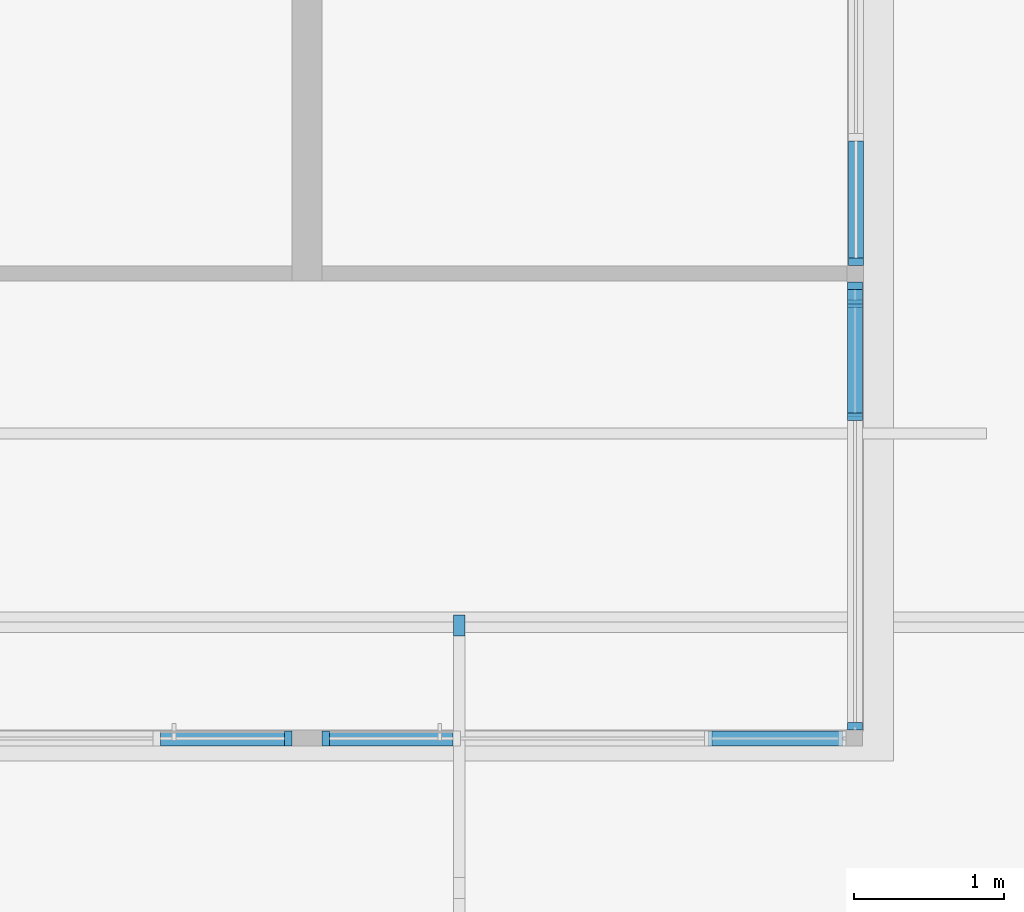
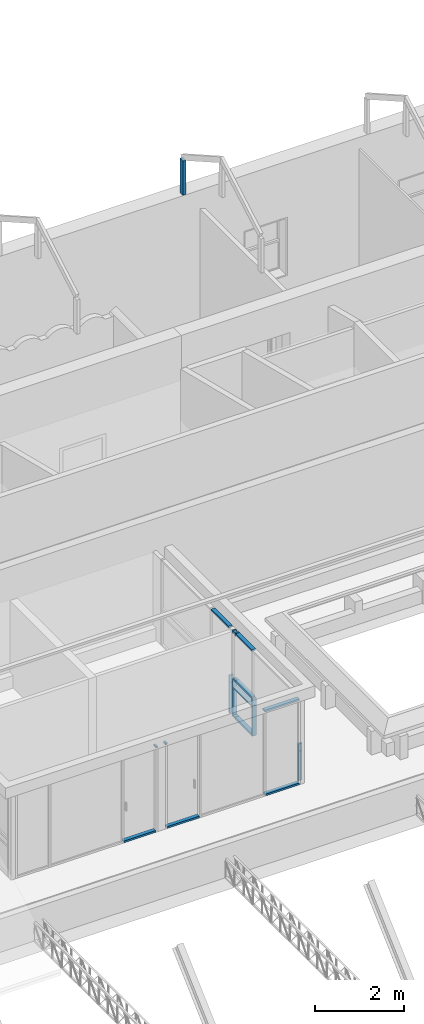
# One storey, part 62 of 153: 25 members, 5 elements without a shape of their own.
"""IFC4 building model written with IfcOpenShell, lengths in metres."""

from ifc_helpers import new_model, entity, si_unit, converted_unit, derived_unit, direction, frame, origin, place, context, subcontext, project, spatial, indexed_curve, outline, extrude, source, transform, mapped, material, type_object, type_shapes, element, aggregate, save


model = new_model("IFC4")

# Units and contexts
model_context = context("Model", 3, precision=1e-05, world=origin(), true_north=direction((6.123031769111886e-17, 1.0)))
body_context = subcontext(model_context, "Body", "Model", "MODEL_VIEW")
ifc_project = project(units=[si_unit("LENGTHUNIT", "METRE"), si_unit("AREAUNIT", "SQUARE_METRE"), si_unit("VOLUMEUNIT", "CUBIC_METRE"), converted_unit("PLANEANGLEUNIT", "DEGREE", entity("IfcRatioMeasure", 0.017453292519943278), si_unit("PLANEANGLEUNIT", "RADIAN"), dimensions=[0, 0, 0, 0, 0, 0, 0]), si_unit("MASSUNIT", "GRAM", prefix="KILO"), derived_unit("MASSDENSITYUNIT", [(si_unit("MASSUNIT", "GRAM", prefix="KILO"), 1), (si_unit("LENGTHUNIT", "METRE"), -3)]), derived_unit("MOMENTOFINERTIAUNIT", [(si_unit("LENGTHUNIT", "METRE"), 4)]), si_unit("TIMEUNIT", "SECOND"), si_unit("FREQUENCYUNIT", "HERTZ"), si_unit("THERMODYNAMICTEMPERATUREUNIT", "DEGREE_CELSIUS"), derived_unit("THERMALTRANSMITTANCEUNIT", [(si_unit("MASSUNIT", "GRAM", prefix="KILO"), 1), (si_unit("THERMODYNAMICTEMPERATUREUNIT", "KELVIN"), -1), (si_unit("TIMEUNIT", "SECOND"), -3)]), derived_unit("VOLUMETRICFLOWRATEUNIT", [(si_unit("LENGTHUNIT", "METRE"), 3), (si_unit("TIMEUNIT", "SECOND"), -1)]), derived_unit("MASSFLOWRATEUNIT", [(si_unit("MASSUNIT", "GRAM", prefix="KILO"), 1), (si_unit("TIMEUNIT", "SECOND"), -1)]), derived_unit("ROTATIONALFREQUENCYUNIT", [(si_unit("TIMEUNIT", "SECOND"), -1)]), si_unit("ELECTRICCURRENTUNIT", "AMPERE"), si_unit("ELECTRICVOLTAGEUNIT", "VOLT"), si_unit("POWERUNIT", "WATT"), si_unit("FORCEUNIT", "NEWTON", prefix="KILO"), si_unit("ILLUMINANCEUNIT", "LUX"), si_unit("LUMINOUSFLUXUNIT", "LUMEN"), si_unit("LUMINOUSINTENSITYUNIT", "CANDELA"), derived_unit("USERDEFINED", [(si_unit("MASSUNIT", "GRAM", prefix="KILO"), -1), (si_unit("LENGTHUNIT", "METRE"), -2), (si_unit("TIMEUNIT", "SECOND"), 3), (si_unit("LUMINOUSFLUXUNIT", "LUMEN"), 1)]), derived_unit("SOUNDPOWERUNIT", [(si_unit("MASSUNIT", "GRAM", prefix="KILO"), 1), (si_unit("LENGTHUNIT", "METRE"), 2), (si_unit("TIMEUNIT", "SECOND"), -3)]), derived_unit("SOUNDPRESSUREUNIT", [(si_unit("MASSUNIT", "GRAM", prefix="KILO"), 1), (si_unit("LENGTHUNIT", "METRE"), -1), (si_unit("TIMEUNIT", "SECOND"), -2)]), derived_unit("LINEARVELOCITYUNIT", [(si_unit("LENGTHUNIT", "METRE"), 1), (si_unit("TIMEUNIT", "SECOND"), -1)]), si_unit("PRESSUREUNIT", "PASCAL"), derived_unit("USERDEFINED", [(si_unit("LENGTHUNIT", "METRE"), -2), (si_unit("MASSUNIT", "GRAM", prefix="KILO"), 1), (si_unit("TIMEUNIT", "SECOND"), -2)]), derived_unit("LINEARFORCEUNIT", [(si_unit("MASSUNIT", "GRAM", prefix="KILO"), 1), (si_unit("LENGTHUNIT", "METRE"), 1), (si_unit("TIMEUNIT", "SECOND"), -2), (si_unit("LENGTHUNIT", "METRE"), -1)]), derived_unit("PLANARFORCEUNIT", [(si_unit("MASSUNIT", "GRAM", prefix="KILO"), 1), (si_unit("LENGTHUNIT", "METRE"), 1), (si_unit("TIMEUNIT", "SECOND"), -2), (si_unit("LENGTHUNIT", "METRE"), -2)])], contexts=[model_context])

# Site, building, storey
site_placement = place(None, origin())
site = spatial("IfcSite", under=ifc_project, at=site_placement, Name="Superficie", CompositionType="ELEMENT")
building_placement = place(site_placement, origin())
building = spatial("IfcBuilding", under=site, at=building_placement, CompositionType="ELEMENT")
storey_placement = place(building_placement, frame((0.0, 0.0, 3.5999999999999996)))
storey = spatial("IfcBuildingStorey", under=building, at=storey_placement, Name="Nivel 1", CompositionType="ELEMENT", Elevation=3.5999999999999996)

# Curtain wall, member
curtain_wall_type = type_object("IfcCurtainWallType", Name="Muro cortina:Muro cortina - simple", PredefinedType="NOTDEFINED")
curtain_wall_1_placement = place(storey_placement, frame((0.0, 0.0, -3.5999999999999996)))
curtain_wall_1 = element("IfcCurtainWall", 1, at=curtain_wall_1_placement, inside=storey, type_object=curtain_wall_type, Name="Muro cortina:Muro cortina - simple", ObjectType="Muro cortina:Muro cortina - simple", PredefinedType="NOTDEFINED")
ifc_material_1 = material(Name="<Unnamed>")
member_type_1 = type_object("IfcMemberType", Name="Montante rectangular:Montante rectangular - 5 x 10 cm", PredefinedType="MULLION", material=ifc_material_1)
shared_shape_1 = source(origin(), body_context, "Body", "SweptSolid", [
    extrude(outline(indexed_curve([(-0.05, -0.025), (0.05, -0.025), (0.05, 0.025), (-0.05, 0.025), (-0.05, -0.025)], self_intersect=False)), frame((-0.025, 0.0, -0.8999999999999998), z_axis=(0.0, 0.0, 1.0), x_axis=(0.0, -1.0, 0.0)), (0.0, 0.0, 1.0), 0.8999999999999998),
])
type_shapes(member_type_1, [shared_shape_1])
member_1_placement = place(curtain_wall_1_placement, frame((-6.498200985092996, -0.9636067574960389, 5.949999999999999), z_axis=(-1.0, 0.0, 0.0), x_axis=(0.0, 0.0, 1.0)))
member_1 = element("IfcMember", 2, at=member_1_placement, type_object=member_type_1, material=ifc_material_1, Name="Montante rectangular:Montante rectangular - 5 x 10 cm", ObjectType="Montante rectangular:Montante rectangular - 5 x 10 cm", PredefinedType="MULLION", context=body_context, shape_type="MappedRepresentation", body=[
    mapped(shared_shape_1, transform((0.0, 0.0, 0.0), scale=1.0)),
])

# Curtain wall, members
curtain_wall_2_placement = place(storey_placement, frame((0.0, 0.0, -3.5999999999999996)))
curtain_wall_2 = element("IfcCurtainWall", 3, at=curtain_wall_2_placement, inside=storey, type_object=curtain_wall_type, Name="Muro cortina:Muro cortina - simple", ObjectType="Muro cortina:Muro cortina - simple", PredefinedType="NOTDEFINED")
member_type_2 = type_object("IfcMemberType", Name="Montante rectangular:Montante rectangular - 5 x 10 cm", PredefinedType="MULLION", material=ifc_material_1)
shared_shape_2 = source(origin(), body_context, "Body", "SweptSolid", [
    extrude(outline(indexed_curve([(-0.05, -0.025), (0.05, -0.025), (0.05, 0.025), (-0.05, 0.025), (-0.05, -0.025)], self_intersect=False)), frame((0.0, 0.0, -0.19999999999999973), z_axis=(0.0, 0.0, 1.0), x_axis=(0.0, -1.0, 0.0)), (0.0, 0.0, 1.0), 0.19999999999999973),
])
type_shapes(member_type_2, [shared_shape_2])
member_2_placement = place(curtain_wall_2_placement, frame((-5.5182009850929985, 1.1813932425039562, 4.43), z_axis=(0.0, 0.0, -1.0), x_axis=(0.0, 1.0, 0.0)))
member_2 = element("IfcMember", 4, at=member_2_placement, type_object=member_type_2, material=ifc_material_1, Name="Montante rectangular:Montante rectangular - 5 x 10 cm", ObjectType="Montante rectangular:Montante rectangular - 5 x 10 cm", PredefinedType="MULLION", context=body_context, shape_type="MappedRepresentation", body=[
    mapped(shared_shape_2, transform((0.0, 0.0, 0.0), scale=1.0)),
])
member_type_3 = type_object("IfcMemberType", Name="Montante rectangular:Montante rectangular - 5 x 10 cm", PredefinedType="MULLION", material=ifc_material_1)
shared_shape_3 = source(origin(), body_context, "Body", "SweptSolid", [
    extrude(outline(indexed_curve([(-0.05, -0.025), (0.05, -0.025), (0.05, 0.025), (-0.05, 0.025), (-0.05, -0.025)], self_intersect=False)), frame((0.0, 0.0, -0.8350000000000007), z_axis=(0.0, 0.0, 1.0), x_axis=(0.0, -1.0, 0.0)), (0.0, 0.0, 1.0), 0.8350000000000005),
])
type_shapes(member_type_3, [shared_shape_3])
member_3_placement = place(curtain_wall_2_placement, frame((-5.5182009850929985, 1.1813932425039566, 3.5949999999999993), z_axis=(0.0, 0.0, -1.0), x_axis=(0.0, 1.0, 0.0)))
member_3 = element("IfcMember", 5, at=member_3_placement, type_object=member_type_3, material=ifc_material_1, Name="Montante rectangular:Montante rectangular - 5 x 10 cm", ObjectType="Montante rectangular:Montante rectangular - 5 x 10 cm", PredefinedType="MULLION", context=body_context, shape_type="MappedRepresentation", body=[
    mapped(shared_shape_3, transform((0.0, 0.0, 0.0), scale=1.0)),
])
member_type_4 = type_object("IfcMemberType", Name="Montante rectangular:Montante rectangular - 5 x 10 cm", PredefinedType="MULLION", material=ifc_material_1)
shared_shape_4 = source(origin(), body_context, "Body", "SweptSolid", [
    extrude(outline(indexed_curve([(-0.05, -0.025), (0.05, -0.025), (0.05, 0.025), (-0.05, 0.025), (-0.05, -0.025)], self_intersect=False)), frame((-0.025, 0.0, -0.19999999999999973), z_axis=(0.0, 0.0, 1.0), x_axis=(0.0, -1.0, 0.0)), (0.0, 0.0, 1.0), 0.19999999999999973),
])
type_shapes(member_type_4, [shared_shape_4])
member_4_placement = place(curtain_wall_2_placement, frame((-5.5182009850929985, -0.9047671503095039, 4.63), z_axis=(0.0, 0.0, 1.0), x_axis=(0.0, -1.0, 0.0)))
member_4 = element("IfcMember", 6, at=member_4_placement, type_object=member_type_4, material=ifc_material_1, Name="Montante rectangular:Montante rectangular - 5 x 10 cm", ObjectType="Montante rectangular:Montante rectangular - 5 x 10 cm", PredefinedType="MULLION", context=body_context, shape_type="MappedRepresentation", body=[
    mapped(shared_shape_4, transform((0.0, 0.0, 0.0), scale=1.0)),
])
member_type_5 = type_object("IfcMemberType", Name="Montante rectangular:Montante rectangular - 5 x 10 cm", PredefinedType="MULLION", material=ifc_material_1)
shared_shape_5 = source(origin(), body_context, "Body", "SweptSolid", [
    extrude(outline(indexed_curve([(-0.05, -0.025), (0.05, -0.025), (0.05, 0.025), (-0.05, 0.025), (-0.05, -0.025)], self_intersect=False)), frame((-0.025, 0.0, -0.8100000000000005), z_axis=(0.0, 0.0, 1.0), x_axis=(0.0, -1.0, 0.0)), (0.0, 0.0, 1.0), 0.8100000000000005),
])
type_shapes(member_type_5, [shared_shape_5])
member_5_placement = place(curtain_wall_2_placement, frame((-5.5182009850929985, 2.0813932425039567, 3.619999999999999), z_axis=(0.0, 0.0, -1.0), x_axis=(0.0, 1.0, 0.0)))
member_5 = element("IfcMember", 7, at=member_5_placement, type_object=member_type_5, material=ifc_material_1, Name="Montante rectangular:Montante rectangular - 5 x 10 cm", ObjectType="Montante rectangular:Montante rectangular - 5 x 10 cm", PredefinedType="MULLION", context=body_context, shape_type="MappedRepresentation", body=[
    mapped(shared_shape_5, transform((0.0, 0.0, 0.0), scale=1.0)),
])
member_type_6 = type_object("IfcMemberType", Name="Montante rectangular:Montante rectangular - 5 x 10 cm", PredefinedType="MULLION", material=ifc_material_1)
shared_shape_6 = source(origin(), body_context, "Body", "SweptSolid", [
    extrude(outline(indexed_curve([(-0.05, -0.025), (0.05, -0.025), (0.05, 0.025), (-0.05, 0.025), (-0.05, -0.025)], self_intersect=False)), frame((-0.025, 0.0, -0.8099999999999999), z_axis=(0.0, 0.0, 1.0), x_axis=(0.0, -1.0, 0.0)), (0.0, 0.0, 1.0), 0.8099999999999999),
])
type_shapes(member_type_6, [shared_shape_6])
member_6_placement = place(curtain_wall_2_placement, frame((-5.5182009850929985, -0.9047671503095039, 4.43), z_axis=(0.0, 0.0, 1.0), x_axis=(0.0, -1.0, 0.0)))
member_6 = element("IfcMember", 8, at=member_6_placement, type_object=member_type_6, material=ifc_material_1, Name="Montante rectangular:Montante rectangular - 5 x 10 cm", ObjectType="Montante rectangular:Montante rectangular - 5 x 10 cm", PredefinedType="MULLION", context=body_context, shape_type="MappedRepresentation", body=[
    mapped(shared_shape_6, transform((0.0, 0.0, 0.0), scale=1.0)),
])

# Member
member_type_7 = type_object("IfcMemberType", Name="Montante rectangular:Montante rectangular - 5 x 10 cm", PredefinedType="MULLION", material=ifc_material_1)
shared_shape_7 = source(origin(), body_context, "Body", "SweptSolid", [
    extrude(outline(indexed_curve([(-0.05, -0.025), (0.05, -0.025), (0.05, 0.025), (-0.05, 0.025), (-0.05, -0.025)], self_intersect=False)), frame((-0.025, 0.0, -0.8250000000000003), z_axis=(0.0, 0.0, 1.0), x_axis=(0.0, -1.0, 0.0)), (0.0, 0.0, 1.0), 0.8249999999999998),
])
type_shapes(member_type_7, [shared_shape_7])
member_7_placement = place(curtain_wall_1_placement, frame((-8.198200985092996, -0.9636067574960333, 3.5999999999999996), z_axis=(1.0, 0.0, 0.0), x_axis=(0.0, 0.0, -1.0)))
member_7 = element("IfcMember", 9, at=member_7_placement, type_object=member_type_7, material=ifc_material_1, Name="Montante rectangular:Montante rectangular - 5 x 10 cm", ObjectType="Montante rectangular:Montante rectangular - 5 x 10 cm", PredefinedType="MULLION", context=body_context, shape_type="MappedRepresentation", body=[
    mapped(shared_shape_7, transform((0.0, 0.0, 0.0), scale=1.0)),
])

member_type_8 = type_object("IfcMemberType", Name="Montante rectangular:Montante rectangular - 5 x 10 cm", PredefinedType="MULLION", material=ifc_material_1)
shared_shape_8 = source(origin(), body_context, "Body", "SweptSolid", [
    extrude(outline(indexed_curve([(-0.05, -0.025), (0.05, -0.025), (0.05, 0.025), (-0.05, 0.025), (-0.05, -0.025)], self_intersect=False)), frame((-0.025, 0.0, -0.8749999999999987), z_axis=(0.0, 0.0, 1.0), x_axis=(0.0, -1.0, 0.0)), (0.0, 0.0, 1.0), 0.8749999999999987),
])
type_shapes(member_type_8, [shared_shape_8])
member_8_placement = place(curtain_wall_1_placement, frame((-5.598200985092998, -0.9636067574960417, 3.5999999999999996), z_axis=(1.0, 0.0, 0.0), x_axis=(0.0, 0.0, -1.0)))
member_8 = element("IfcMember", 10, at=member_8_placement, type_object=member_type_8, material=ifc_material_1, Name="Montante rectangular:Montante rectangular - 5 x 10 cm", ObjectType="Montante rectangular:Montante rectangular - 5 x 10 cm", PredefinedType="MULLION", context=body_context, shape_type="MappedRepresentation", body=[
    mapped(shared_shape_8, transform((0.0, 0.0, 0.0), scale=1.0)),
])

member_type_9 = type_object("IfcMemberType", Name="Montante rectangular:Montante rectangular - 5 x 10 cm", PredefinedType="MULLION", material=ifc_material_1)
shared_shape_9 = source(origin(), body_context, "Body", "SweptSolid", [
    extrude(outline(indexed_curve([(-0.05, -0.025), (0.05, -0.025), (0.05, 0.025), (-0.05, 0.025), (-0.05, -0.025)], self_intersect=False)), frame((-0.025, 0.0, -0.04999999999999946), z_axis=(0.0, 0.0, 1.0), x_axis=(0.0, -1.0, 0.0)), (0.0, 0.0, 1.0), 0.04999999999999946),
])
type_shapes(member_type_9, [shared_shape_9])
member_9_placement = place(curtain_wall_1_placement, frame((-9.073200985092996, -0.9636067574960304, 5.9), z_axis=(0.0, 0.0, -1.0), x_axis=(-1.0, 0.0, 0.0)))
member_9 = element("IfcMember", 11, at=member_9_placement, type_object=member_type_9, material=ifc_material_1, Name="Montante rectangular:Montante rectangular - 5 x 10 cm", ObjectType="Montante rectangular:Montante rectangular - 5 x 10 cm", PredefinedType="MULLION", context=body_context, shape_type="MappedRepresentation", body=[
    mapped(shared_shape_9, transform((0.0, 0.0, 0.0), scale=1.0)),
])

aggregate(curtain_wall_1, [member_1, member_7, member_8, member_9])

# Curtain wall, members
curtain_wall_3_placement = place(storey_placement, frame((0.0, 0.0, -3.5999999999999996)))
curtain_wall_3 = element("IfcCurtainWall", 12, at=curtain_wall_3_placement, inside=storey, type_object=curtain_wall_type, Name="Muro cortina:Muro cortina - simple", ObjectType="Muro cortina:Muro cortina - simple", PredefinedType="NOTDEFINED")
member_type_10 = type_object("IfcMemberType", Name="Montante rectangular:Montante rectangular - 5 x 10 cm", PredefinedType="MULLION", material=ifc_material_1)
shared_shape_10 = source(origin(), body_context, "Body", "SweptSolid", [
    extrude(outline(indexed_curve([(-0.05, -0.025), (0.05, -0.025), (0.05, 0.025), (-0.05, 0.025), (-0.05, -0.025)], self_intersect=False)), frame((-0.025, 0.0, -0.8250000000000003), z_axis=(0.0, 0.0, 1.0), x_axis=(0.0, -1.0, 0.0)), (0.0, 0.0, 1.0), 0.8249999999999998),
])
type_shapes(member_type_10, [shared_shape_10])
member_10_placement = place(curtain_wall_3_placement, frame((-10.148200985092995, -0.9636067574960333, 3.5999999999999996), z_axis=(-1.0, 0.0, 0.0), x_axis=(0.0, 0.0, -1.0)))
member_10 = element("IfcMember", 13, at=member_10_placement, type_object=member_type_10, material=ifc_material_1, Name="Montante rectangular:Montante rectangular - 5 x 10 cm", ObjectType="Montante rectangular:Montante rectangular - 5 x 10 cm", PredefinedType="MULLION", context=body_context, shape_type="MappedRepresentation", body=[
    mapped(shared_shape_10, transform((0.0, 0.0, 0.0), scale=1.0)),
])
member_type_11 = type_object("IfcMemberType", Name="Montante rectangular:Montante rectangular - 5 x 10 cm", PredefinedType="MULLION", material=ifc_material_1)
shared_shape_11 = source(origin(), body_context, "Body", "SweptSolid", [
    extrude(outline(indexed_curve([(-0.05, -0.025), (0.05, -0.025), (0.05, 0.025), (-0.05, 0.025), (-0.05, -0.025)], self_intersect=False)), frame((-0.025, 0.0, -0.04999999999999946), z_axis=(0.0, 0.0, 1.0), x_axis=(0.0, -1.0, 0.0)), (0.0, 0.0, 1.0), 0.04999999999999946),
])
type_shapes(member_type_11, [shared_shape_11])
member_11_placement = place(curtain_wall_3_placement, frame((-9.273200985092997, -0.9636067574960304, 5.9), z_axis=(0.0, 0.0, -1.0), x_axis=(1.0, 0.0, 0.0)))
member_11 = element("IfcMember", 14, at=member_11_placement, type_object=member_type_11, material=ifc_material_1, Name="Montante rectangular:Montante rectangular - 5 x 10 cm", ObjectType="Montante rectangular:Montante rectangular - 5 x 10 cm", PredefinedType="MULLION", context=body_context, shape_type="MappedRepresentation", body=[
    mapped(shared_shape_11, transform((0.0, 0.0, 0.0), scale=1.0)),
])
aggregate(curtain_wall_3, [member_10, member_11])

# Member
member_type_12 = type_object("IfcMemberType", Name="Montante rectangular:Montante rectangular - 5 x 10 cm", PredefinedType="MULLION", material=ifc_material_1)
shared_shape_12 = source(origin(), body_context, "Body", "SweptSolid", [
    extrude(outline(indexed_curve([(-0.05, -0.025), (0.05, -0.025), (0.05, 0.025), (-0.05, 0.025), (-0.05, -0.025)], self_intersect=False)), frame((0.0, 0.0, -0.8250000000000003), z_axis=(0.0, 0.0, 1.0), x_axis=(0.0, -1.0, 0.0)), (0.0, 0.0, 1.0), 0.8250000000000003),
])
type_shapes(member_type_12, [shared_shape_12])
member_12_placement = place(curtain_wall_2_placement, frame((-5.5182009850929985, 2.031393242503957, 4.404999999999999), z_axis=(0.0, 1.0, 0.0), x_axis=(0.0, 0.0, 1.0)))
member_12 = element("IfcMember", 15, at=member_12_placement, type_object=member_type_12, material=ifc_material_1, Name="Montante rectangular:Montante rectangular - 5 x 10 cm", ObjectType="Montante rectangular:Montante rectangular - 5 x 10 cm", PredefinedType="MULLION", context=body_context, shape_type="MappedRepresentation", body=[
    mapped(shared_shape_12, transform((0.0, 0.0, 0.0), scale=1.0)),
])

member_type_13 = type_object("IfcMemberType", Name="Montante rectangular:Montante rectangular - 5 x 10 cm", PredefinedType="MULLION", material=ifc_material_1)
shared_shape_13 = source(origin(), body_context, "Body", "SweptSolid", [
    extrude(outline(indexed_curve([(-0.05, -0.025), (0.05, -0.025), (0.05, 0.025), (-0.05, 0.025), (-0.05, -0.025)], self_intersect=False)), frame((0.0, 0.0, -0.7288396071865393), z_axis=(0.0, 0.0, 1.0), x_axis=(0.0, -1.0, 0.0)), (0.0, 0.0, 1.0), 0.7288396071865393),
])
type_shapes(member_type_13, [shared_shape_13])
member_13_placement = place(curtain_wall_2_placement, frame((-5.5182009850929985, 1.9352328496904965, 3.619999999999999), z_axis=(0.0, 1.0, 0.0), x_axis=(0.0, 0.0, 1.0)))
member_13 = element("IfcMember", 16, at=member_13_placement, type_object=member_type_13, material=ifc_material_1, Name="Montante rectangular:Montante rectangular - 5 x 10 cm", ObjectType="Montante rectangular:Montante rectangular - 5 x 10 cm", PredefinedType="MULLION", context=body_context, shape_type="MappedRepresentation", body=[
    mapped(shared_shape_13, transform((0.0, 0.0, 0.0), scale=1.0)),
])

member_type_14 = type_object("IfcMemberType", Name="Montante rectangular:Montante rectangular - 5 x 10 cm", PredefinedType="MULLION", material=ifc_material_1)
shared_shape_14 = source(origin(), body_context, "Body", "SweptSolid", [
    extrude(outline(indexed_curve([(-0.05, -0.025), (0.05, -0.025), (0.05, 0.025), (-0.05, 0.025), (-0.05, -0.025)], self_intersect=False)), frame((-0.025, 0.0, -0.7288396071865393), z_axis=(0.0, 0.0, 1.0), x_axis=(0.0, -1.0, 0.0)), (0.0, 0.0, 1.0), 0.7288396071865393),
])
type_shapes(member_type_14, [shared_shape_14])
member_14_placement = place(curtain_wall_2_placement, frame((-5.5182009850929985, 1.910232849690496, 5.949999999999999), z_axis=(0.0, 1.0, 0.0), x_axis=(0.0, 0.0, 1.0)))
member_14 = element("IfcMember", 17, at=member_14_placement, type_object=member_type_14, material=ifc_material_1, Name="Montante rectangular:Montante rectangular - 5 x 10 cm", ObjectType="Montante rectangular:Montante rectangular - 5 x 10 cm", PredefinedType="MULLION", context=body_context, shape_type="MappedRepresentation", body=[
    mapped(shared_shape_14, transform((0.0, 0.0, 0.0), scale=1.0)),
])

member_type_15 = type_object("IfcMemberType", Name="Montante rectangular:Montante rectangular - 5 x 10 cm", PredefinedType="MULLION", material=ifc_material_1)
shared_shape_15 = source(origin(), body_context, "Body", "SweptSolid", [
    extrude(outline(indexed_curve([(-0.05, -0.025), (0.05, -0.025), (0.05, 0.025), (-0.05, 0.025), (-0.05, -0.025)], self_intersect=False)), frame((0.0, 0.0, -0.07000000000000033), z_axis=(0.0, 0.0, 1.0), x_axis=(0.0, -1.0, 0.0)), (0.0, 0.0, 1.0), 0.07000000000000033),
])
type_shapes(member_type_15, [shared_shape_15])
member_15_placement = place(curtain_wall_2_placement, frame((-5.5182009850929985, 1.9352328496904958, 5.879999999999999), z_axis=(0.0, 0.0, -1.0), x_axis=(0.0, 1.0, 0.0)))
member_15 = element("IfcMember", 18, at=member_15_placement, type_object=member_type_15, material=ifc_material_1, Name="Montante rectangular:Montante rectangular - 5 x 10 cm", ObjectType="Montante rectangular:Montante rectangular - 5 x 10 cm", PredefinedType="MULLION", context=body_context, shape_type="MappedRepresentation", body=[
    mapped(shared_shape_15, transform((0.0, 0.0, 0.0), scale=1.0)),
])

member_type_16 = type_object("IfcMemberType", Name="Montante rectangular:Montante rectangular - 5 x 10 cm", PredefinedType="MULLION", material=ifc_material_1)
shared_shape_16 = source(origin(), body_context, "Body", "SweptSolid", [
    extrude(outline(indexed_curve([(-0.05, -0.025), (0.05, -0.025), (0.05, 0.025), (-0.05, 0.025), (-0.05, -0.025)], self_intersect=False)), frame((-0.025, 0.0, -0.7538396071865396), z_axis=(0.0, 0.0, 1.0), x_axis=(0.0, -1.0, 0.0)), (0.0, 0.0, 1.0), 0.7538396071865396),
])
type_shapes(member_type_16, [shared_shape_16])
member_16_placement = place(curtain_wall_2_placement, frame((-5.5182009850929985, 1.1813932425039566, 3.5999999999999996), z_axis=(0.0, -1.0, 0.0), x_axis=(0.0, 0.0, -1.0)))
member_16 = element("IfcMember", 19, at=member_16_placement, type_object=member_type_16, material=ifc_material_1, Name="Montante rectangular:Montante rectangular - 5 x 10 cm", ObjectType="Montante rectangular:Montante rectangular - 5 x 10 cm", PredefinedType="MULLION", context=body_context, shape_type="MappedRepresentation", body=[
    mapped(shared_shape_16, transform((0.0, 0.0, 0.0), scale=1.0)),
])

member_type_17 = type_object("IfcMemberType", Name="Montante rectangular:Montante rectangular - 5 x 10 cm", PredefinedType="MULLION", material=ifc_material_1)
shared_shape_17 = source(origin(), body_context, "Body", "SweptSolid", [
    extrude(outline(indexed_curve([(-0.05, -0.025), (0.05, -0.025), (0.05, 0.025), (-0.05, 0.025), (-0.05, -0.025)], self_intersect=False)), frame((-0.025, 0.0, -0.14616039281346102), z_axis=(0.0, 0.0, 1.0), x_axis=(0.0, -1.0, 0.0)), (0.0, 0.0, 1.0), 0.14616039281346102),
])
type_shapes(member_type_17, [shared_shape_17])
member_17_placement = place(curtain_wall_2_placement, frame((-5.5182009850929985, 1.9352328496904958, 3.5999999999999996), z_axis=(0.0, -1.0, 0.0), x_axis=(0.0, 0.0, -1.0)))
member_17 = element("IfcMember", 20, at=member_17_placement, type_object=member_type_17, material=ifc_material_1, Name="Montante rectangular:Montante rectangular - 5 x 10 cm", ObjectType="Montante rectangular:Montante rectangular - 5 x 10 cm", PredefinedType="MULLION", context=body_context, shape_type="MappedRepresentation", body=[
    mapped(shared_shape_17, transform((0.0, 0.0, 0.0), scale=1.0)),
])

member_type_18 = type_object("IfcMemberType", Name="Montante rectangular:Montante rectangular - 5 x 10 cm", PredefinedType="MULLION", material=ifc_material_1)
shared_shape_18 = source(origin(), body_context, "Body", "SweptSolid", [
    extrude(outline(indexed_curve([(-0.05, -0.025), (0.05, -0.025), (0.05, 0.025), (-0.05, 0.025), (-0.05, -0.025)], self_intersect=False)), frame((-0.025, 0.0, -0.2), z_axis=(0.0, 0.0, 1.0), x_axis=(0.0, -1.0, 0.0)), (0.0, 0.0, 1.0), 0.2),
])
type_shapes(member_type_18, [shared_shape_18])
member_18_placement = place(curtain_wall_2_placement, frame((-5.5182009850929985, 2.0813932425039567, 4.43), z_axis=(0.0, 0.0, -1.0), x_axis=(0.0, 1.0, 0.0)))
member_18 = element("IfcMember", 21, at=member_18_placement, type_object=member_type_18, material=ifc_material_1, Name="Montante rectangular:Montante rectangular - 5 x 10 cm", ObjectType="Montante rectangular:Montante rectangular - 5 x 10 cm", PredefinedType="MULLION", context=body_context, shape_type="MappedRepresentation", body=[
    mapped(shared_shape_18, transform((0.0, 0.0, 0.0), scale=1.0)),
])

member_type_19 = type_object("IfcMemberType", Name="Montante rectangular:Montante rectangular - 5 x 10 cm", PredefinedType="MULLION", material=ifc_material_1)
shared_shape_19 = source(origin(), body_context, "Body", "SweptSolid", [
    extrude(outline(indexed_curve([(-0.05, -0.025), (0.05, -0.025), (0.05, 0.025), (-0.05, 0.025), (-0.05, -0.025)], self_intersect=False)), frame((-0.025, 0.0, -0.07000000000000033), z_axis=(0.0, 0.0, 1.0), x_axis=(0.0, -1.0, 0.0)), (0.0, 0.0, 1.0), 0.07000000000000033),
])
type_shapes(member_type_19, [shared_shape_19])
member_19_placement = place(curtain_wall_2_placement, frame((-5.5182009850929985, 2.0813932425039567, 5.879999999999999), z_axis=(0.0, 0.0, -1.0), x_axis=(0.0, 1.0, 0.0)))
member_19 = element("IfcMember", 22, at=member_19_placement, type_object=member_type_19, material=ifc_material_1, Name="Montante rectangular:Montante rectangular - 5 x 10 cm", ObjectType="Montante rectangular:Montante rectangular - 5 x 10 cm", PredefinedType="MULLION", context=body_context, shape_type="MappedRepresentation", body=[
    mapped(shared_shape_19, transform((0.0, 0.0, 0.0), scale=1.0)),
])

member_type_20 = type_object("IfcMemberType", Name="Montante rectangular:Montante rectangular - 5 x 10 cm", PredefinedType="MULLION", material=ifc_material_1)
shared_shape_20 = source(origin(), body_context, "Body", "SweptSolid", [
    extrude(outline(indexed_curve([(-0.05, -0.025), (0.05, -0.025), (0.05, 0.025), (-0.05, 0.025), (-0.05, -0.025)], self_intersect=False)), frame((0.0, 0.0, -0.7288396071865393), z_axis=(0.0, 0.0, 1.0), x_axis=(0.0, -1.0, 0.0)), (0.0, 0.0, 1.0), 0.7288396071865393),
])
type_shapes(member_type_20, [shared_shape_20])
member_20_placement = place(curtain_wall_2_placement, frame((-5.5182009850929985, 1.9352328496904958, 4.63), z_axis=(0.0, 1.0, 0.0), x_axis=(0.0, 0.0, 1.0)))
member_20 = element("IfcMember", 23, at=member_20_placement, type_object=member_type_20, material=ifc_material_1, Name="Montante rectangular:Montante rectangular - 5 x 10 cm", ObjectType="Montante rectangular:Montante rectangular - 5 x 10 cm", PredefinedType="MULLION", context=body_context, shape_type="MappedRepresentation", body=[
    mapped(shared_shape_20, transform((0.0, 0.0, 0.0), scale=1.0)),
])

member_type_21 = type_object("IfcMemberType", Name="Montante rectangular:Montante rectangular - 5 x 10 cm", PredefinedType="MULLION", material=ifc_material_1)
shared_shape_21 = source(origin(), body_context, "Body", "SweptSolid", [
    extrude(outline(indexed_curve([(-0.05, -0.025), (0.05, -0.025), (0.05, 0.025), (-0.05, 0.025), (-0.05, -0.025)], self_intersect=False)), frame((0.0, 0.0, -0.096160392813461), z_axis=(0.0, 0.0, 1.0), x_axis=(0.0, -1.0, 0.0)), (0.0, 0.0, 1.0), 0.096160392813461),
])
type_shapes(member_type_21, [shared_shape_21])
member_21_placement = place(curtain_wall_2_placement, frame((-5.5182009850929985, 2.031393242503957, 4.63), z_axis=(0.0, 1.0, 0.0), x_axis=(0.0, 0.0, 1.0)))
member_21 = element("IfcMember", 24, at=member_21_placement, type_object=member_type_21, material=ifc_material_1, Name="Montante rectangular:Montante rectangular - 5 x 10 cm", ObjectType="Montante rectangular:Montante rectangular - 5 x 10 cm", PredefinedType="MULLION", context=body_context, shape_type="MappedRepresentation", body=[
    mapped(shared_shape_21, transform((0.0, 0.0, 0.0), scale=1.0)),
])

aggregate(curtain_wall_2, [member_12, member_2, member_3, member_13, member_6, member_4, member_14, member_15, member_16, member_17, member_18, member_5, member_19, member_20, member_21])

# Curtain wall, members
curtain_wall_4_placement = place(storey_placement, frame((0.0, 0.0, -3.5999999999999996)))
curtain_wall_4 = element("IfcCurtainWall", 25, at=curtain_wall_4_placement, inside=storey, type_object=curtain_wall_type, Name="Muro cortina:Muro cortina - simple", ObjectType="Muro cortina:Muro cortina - simple", PredefinedType="NOTDEFINED")
member_type_22 = type_object("IfcMemberType", Name="Montante rectangular:Montante rectangular - 5 x 10 cm", PredefinedType="MULLION", material=ifc_material_1)
shared_shape_22 = source(origin(), body_context, "Body", "SweptSolid", [
    extrude(outline(indexed_curve([(-0.05, -0.025), (0.05, -0.025), (0.05, 0.025), (-0.05, 0.025), (-0.05, -0.025)], self_intersect=False)), frame((-0.025, 0.0, -0.7788396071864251), z_axis=(0.0, 0.0, 1.0), x_axis=(0.0, -1.0, 0.0)), (0.0, 0.0, 1.0), 0.7788396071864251),
])
type_shapes(member_type_22, [shared_shape_22])
member_22_placement = place(curtain_wall_4_placement, frame((-5.51320098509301, 3.020232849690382, 5.949999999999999), z_axis=(0.0, 1.0, 0.0), x_axis=(0.0, 0.0, 1.0)))
member_22 = element("IfcMember", 26, at=member_22_placement, type_object=member_type_22, material=ifc_material_1, Name="Montante rectangular:Montante rectangular - 5 x 10 cm", ObjectType="Montante rectangular:Montante rectangular - 5 x 10 cm", PredefinedType="MULLION", context=body_context, shape_type="MappedRepresentation", body=[
    mapped(shared_shape_22, transform((0.0, 0.0, 0.0), scale=1.0)),
])
member_type_23 = type_object("IfcMemberType", Name="Montante rectangular:Montante rectangular - 5 x 10 cm", PredefinedType="MULLION", material=ifc_material_1)
shared_shape_23 = source(origin(), body_context, "Body", "SweptSolid", [
    extrude(outline(indexed_curve([(-0.05, -0.025), (0.05, -0.025), (0.05, 0.025), (-0.05, 0.025), (-0.05, -0.025)], self_intersect=False)), frame((-0.025, 0.0, -0.8350000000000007), z_axis=(0.0, 0.0, 1.0), x_axis=(0.0, -1.0, 0.0)), (0.0, 0.0, 1.0), 0.8350000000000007),
])
type_shapes(member_type_23, [shared_shape_23])
member_23_placement = place(curtain_wall_4_placement, frame((-5.5132009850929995, 2.1913932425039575, 4.43), z_axis=(0.0, 0.0, 1.0), x_axis=(0.0, -1.0, 0.0)))
member_23 = element("IfcMember", 27, at=member_23_placement, type_object=member_type_23, material=ifc_material_1, Name="Montante rectangular:Montante rectangular - 5 x 10 cm", ObjectType="Montante rectangular:Montante rectangular - 5 x 10 cm", PredefinedType="MULLION", context=body_context, shape_type="MappedRepresentation", body=[
    mapped(shared_shape_23, transform((0.0, 0.0, 0.0), scale=1.0)),
])
member_type_24 = type_object("IfcMemberType", Name="Montante rectangular:Montante rectangular - 5 x 10 cm", PredefinedType="MULLION", material=ifc_material_1)
shared_shape_24 = source(origin(), body_context, "Body", "SweptSolid", [
    extrude(outline(indexed_curve([(-0.05, -0.025), (0.05, -0.025), (0.05, 0.025), (-0.05, 0.025), (-0.05, -0.025)], self_intersect=False)), frame((-0.025, 0.0, -0.2), z_axis=(0.0, 0.0, 1.0), x_axis=(0.0, -1.0, 0.0)), (0.0, 0.0, 1.0), 0.2),
])
type_shapes(member_type_24, [shared_shape_24])
member_24_placement = place(curtain_wall_4_placement, frame((-5.5132009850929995, 2.1913932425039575, 4.63), z_axis=(0.0, 0.0, 1.0), x_axis=(0.0, -1.0, 0.0)))
member_24 = element("IfcMember", 28, at=member_24_placement, type_object=member_type_24, material=ifc_material_1, Name="Montante rectangular:Montante rectangular - 5 x 10 cm", ObjectType="Montante rectangular:Montante rectangular - 5 x 10 cm", PredefinedType="MULLION", context=body_context, shape_type="MappedRepresentation", body=[
    mapped(shared_shape_24, transform((0.0, 0.0, 0.0), scale=1.0)),
])
aggregate(curtain_wall_4, [member_22, member_23, member_24])

# Assembly, member
assembly_placement = place(storey_placement, origin())
assembly = element("IfcElementAssembly", 29, at=assembly_placement, inside=storey, Name="Cercha superior:Cercha superior", ObjectType="Cercha superior:Cercha superior", AssemblyPlace="NOTDEFINED", PredefinedType="TRUSS")
ifc_material_2 = material(Name="Madera - Madera de construcción", Category="Madera")
member_type_25 = type_object("IfcMemberType", Name="Glulam-Pino del sur:76X140", PredefinedType="BRACE", material=ifc_material_2)
shared_shape_25 = source(origin(), body_context, "Body", "SweptSolid", [
    extrude(outline(indexed_curve([(-0.06999999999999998, -0.03800000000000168), (0.06999999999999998, -0.03800000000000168), (0.06999999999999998, 0.03800000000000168), (-0.06999999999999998, 0.03800000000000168), (-0.06999999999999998, -0.03800000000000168)], self_intersect=False)), frame((-0.5000000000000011, 0.0, 0.0), z_axis=(1.0, 0.0, 0.0), x_axis=(0.0, 0.0, -1.0)), (0.0, 0.0, 1.0), 0.939000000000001),
])
type_shapes(member_type_25, [shared_shape_25])
member_25_placement = place(building_placement, frame((-8.158073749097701, -0.2086949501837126, 20.699959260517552), z_axis=(0.0, -1.0, 0.0), x_axis=(0.0, 0.0, 1.0)))
member_25 = element("IfcMember", 30, at=member_25_placement, type_object=member_type_25, material=ifc_material_2, Name="Glulam-Pino del sur:76X140", ObjectType="Glulam-Pino del sur:76X140", PredefinedType="BRACE", context=body_context, shape_type="MappedRepresentation", body=[
    mapped(shared_shape_25, transform((0.0, 0.0, 0.0), scale=1.0)),
])
aggregate(assembly, [member_25])

save(model, "model.ifc")
